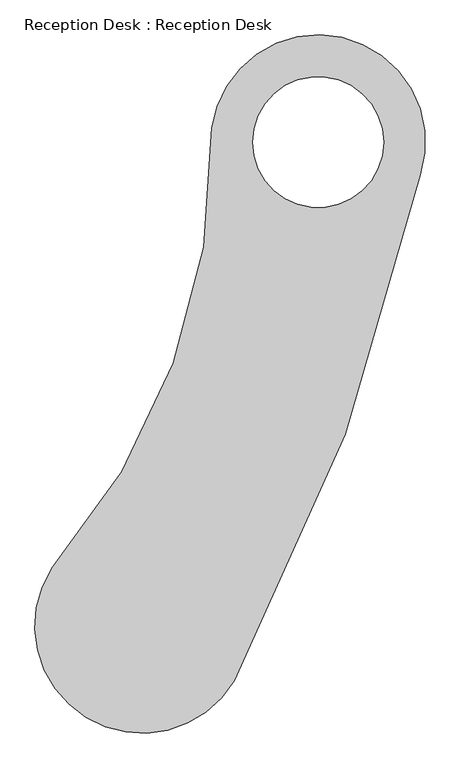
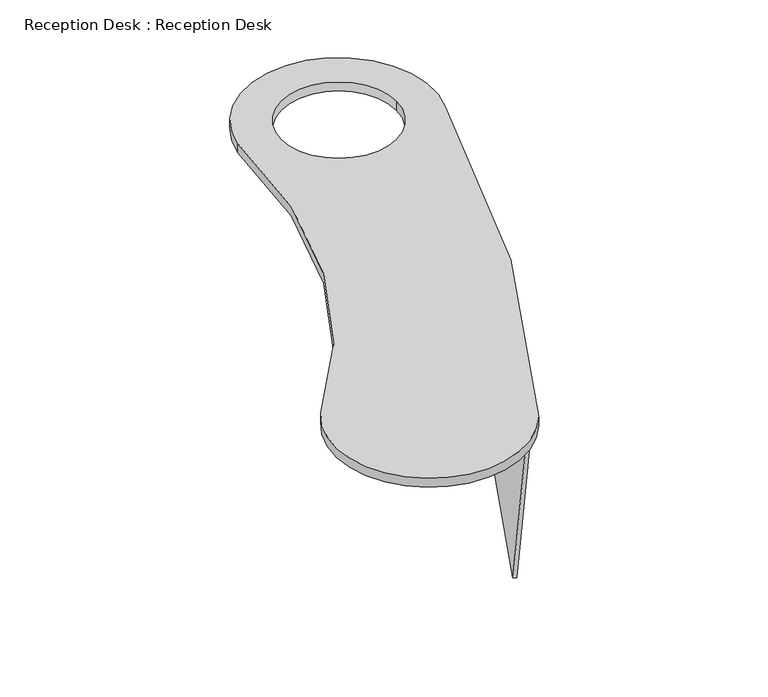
"""IFC4 building model written with IfcOpenShell, lengths in millimetres: furniture geometry, Reception Desk : Reception Desk."""

from ifc_helpers import new_model, si_unit, point, frame, frame_2d, origin, place, context, project, spatial, polyline, circle_curve, trimmed, segment, composite_curve, outline, extrude, source, transform, mapped, element, save
from ifc_brep_helpers import plane_surface, revolved_surface, advanced_brep


def reception_desk_reception_desk_f4f50ac8(model_context):
    return source(origin(), model_context, "Body", "SolidModel", [
        advanced_brep(
        [(-9551.7097741, 1004.6808714, 46570.0), (-9569.30587, 1008.4726269, 46570.0), (-10432.2409238, -1338.1794296, 46570.0), (-10416.3803398, -1346.6907088, 46570.0), (-9618.1839141, 1019.0052812, 45720.0), (-10476.2981017, -1314.5369872, 45720.0), (-10492.1586857, -1306.025708, 45720.0), (-9635.7800099, 1022.7970368, 45720.0)],
        [
            (0, 1),
            (1, 2, circle_curve(frame((-18318.4757611, 2893.8177457, 46570.0), z_axis=(0.0, 0.0, -1.0), x_axis=(0.9775608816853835, -0.21065308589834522, 0.0)), 8950.0)),
            (2, 3),
            (3, 0, circle_curve(frame((-18318.4757611, 2893.8177457, 46570.0), z_axis=(0.0, 0.0, 1.0), x_axis=(0.8811435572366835, -0.472848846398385, 0.0)), 8968.0)),
            (4, 5, circle_curve(frame((-18318.4757611, 2893.8177457, 45720.0), z_axis=(0.0, 0.0, -1.0), x_axis=(0.8811435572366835, -0.472848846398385, 0.0)), 8900.0)),
            (5, 6),
            (6, 7, circle_curve(frame((-18318.4757611, 2893.8177457, 45720.0), z_axis=(0.0, 0.0, 1.0), x_axis=(0.9775608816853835, -0.21065308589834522, 0.0)), 8882.0)),
            (7, 4),
            (7, 1),
            (0, 4),
            (6, 2),
            (5, 3),
        ],
        [
            plane_surface(frame((-9992.4092269, -167.92916, 46570.0), z_axis=(0.0, 0.0, 1.0), x_axis=(-0.21065308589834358, -0.9775608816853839, 0.0))),
            plane_surface(frame((-10055.6051778, -144.6900943, 45720.0), z_axis=(0.0, 0.0, -1.0), x_axis=(-0.21065308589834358, -0.9775608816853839, 0.0))),
            plane_surface(frame((-9626.981962, 1020.901159, 45720.0), z_axis=(0.21065308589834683, 0.9775608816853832, 0.0), x_axis=(-0.9775608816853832, 0.21065308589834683, 0.0))),
            revolved_surface(polyline([(-10432.2409238, -1338.1794295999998, 46570.0), (-10492.158685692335, -1306.0257080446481, 45720.0)]), (-18318.4757611, 2893.8177457, -65305.0), (0.0, 0.0, 1.0)),
            plane_surface(frame((-10484.2283937, -1310.2813476, 45720.0), z_axis=(-0.472848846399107, -0.8811435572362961, 0.0), x_axis=(0.8811435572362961, -0.472848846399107, 0.0))),
            revolved_surface(polyline([(-9618.183914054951, 1019.0052812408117, 45720.0), (-9551.7097741, 1004.6808713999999, 46570.0)]), (-18318.4757611, 2893.8177457, -65530.0), (0.0, 0.0, 1.0)),
        ],
        [
            (0, [[1, 2, 3, 4]]),
            (1, [[5, 6, 7, 8]]),
            (2, [[-8, 9, -1, 10]]),
            (3, [[-7, 11, -2, -9]]),
            (4, [[-6, 12, -3, -11]]),
            (5, [[-5, -10, -4, -12]]),
        ],
    ),
        extrude(outline(composite_curve([segment(trimmed(circle_curve(frame_2d((-13491.7729561, 1144.0678413)), 3000.0), [point((-11240.1193807, -838.3690873))], [point((-10492.6203521, 1215.3676148))], True, "CARTESIAN"), True, "CONTINUOUS"), segment(trimmed(circle_curve(frame_2d((-9997.0313072, 1149.0992317)), 500.0), [point((-10492.6203521, 1215.3676148))], [point((-9520.4278259, 997.9399726))], False, "CARTESIAN"), True, "CONTINUOUS"), segment(trimmed(circle_curve(frame_2d((-18318.4757611, 2893.8177457)), 9000.0), [point((-9520.4278259, 997.9399726))], [point((-10388.1837459, -1361.8218719))], False, "CARTESIAN"), True, "CONTINUOUS"), segment(trimmed(circle_curve(frame_2d((-10817.8796512, -1106.1630582)), 500.0), [point((-10388.1837459, -1361.8218719))], [point((-11240.1193807, -838.3690873))], False, "CARTESIAN"), True, "CONTINUOUS")], self_intersect=False), holes=[composite_curve([segment(trimmed(circle_curve(frame_2d((-9997.0313072, 1149.0992317)), 305.0), [point((-10302.0313072, 1149.0992317))], [point((-9692.0313072, 1149.0992317))], True, "CARTESIAN"), True, "CONTINUOUS"), segment(trimmed(circle_curve(frame_2d((-9997.0313072, 1149.0992317)), 305.0), [point((-9692.0313072, 1149.0992317))], [point((-10302.0313072, 1149.0992317))], True, "CARTESIAN"), True, "CONTINUOUS")], self_intersect=False)]), frame((0.0, 0.0, 46570.0), z_axis=(0.0, 0.0, 1.0), x_axis=(1.0, 0.0, 0.0)), (0.0, 0.0, 1.0), 50.0),
    ])


if __name__ == "__main__":
    model = new_model("IFC4")
    model_context = context("Model", 3, world=origin())
    ifc_project = project(units=[si_unit("LENGTHUNIT", "METRE", prefix="MILLI")], contexts=[model_context])
    site = spatial("IfcSite", under=ifc_project)
    building = spatial("IfcBuilding", under=site)
    placement = place(None, origin())
    reception_desk_reception_desk_shape = reception_desk_reception_desk_f4f50ac8(model_context)
    element("IfcFurniture", 1, ObjectType="Reception Desk : Reception Desk", at=placement, inside=building, context=model_context, shape_type="MappedRepresentation", body=[
        mapped(reception_desk_reception_desk_shape, transform((0.0, 0.0, 0.0), x_axis=(1.0, 0.0, 0.0), y_axis=(0.0, 1.0, 0.0), z_axis=(0.0, 0.0, 1.0))),
    ])
    save(model, "model.ifc")
